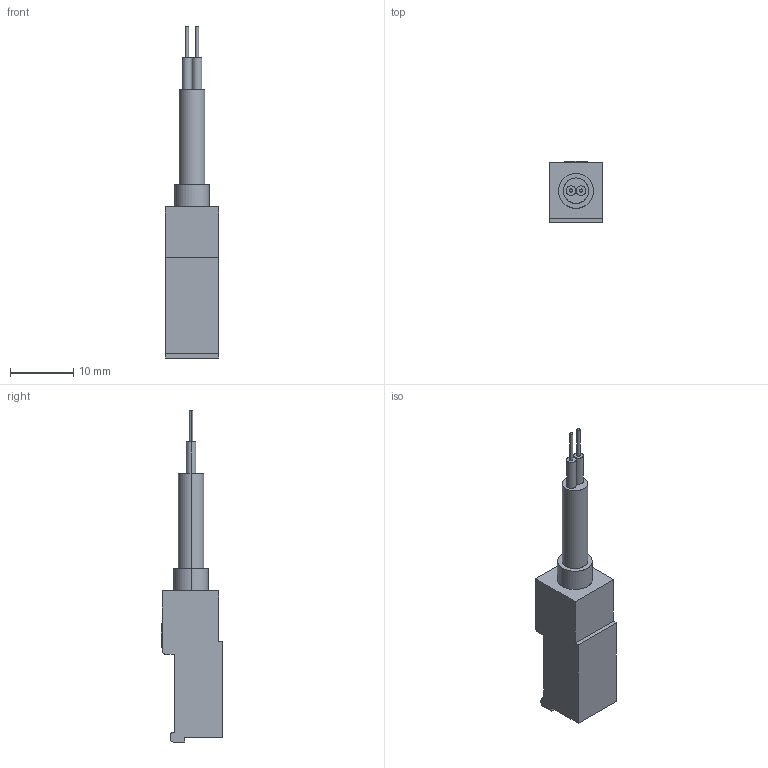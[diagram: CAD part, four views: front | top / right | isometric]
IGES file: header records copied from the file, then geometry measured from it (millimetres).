
Start section: SolidWorks IGES file using analytic representation for surfaces
Global section: file name: C:\Users\Toshiba\Desktop\MT-2(3).IGS; native system: SolidWorks 2014; preprocessor: SolidWorks 2014; author: Toshiba; date: 160621.090907; units: millimetre
Bounding box: 8.5 x 9.7 x 52.3 mm (x, y, z)
Surface area: 1270.4 mm2 (no closed solid volume)
Topology: 0 solids, 0 shells, 38 faces, 484 edges, 484 vertices
Faces by surface type: bspline 21, revolution 17
